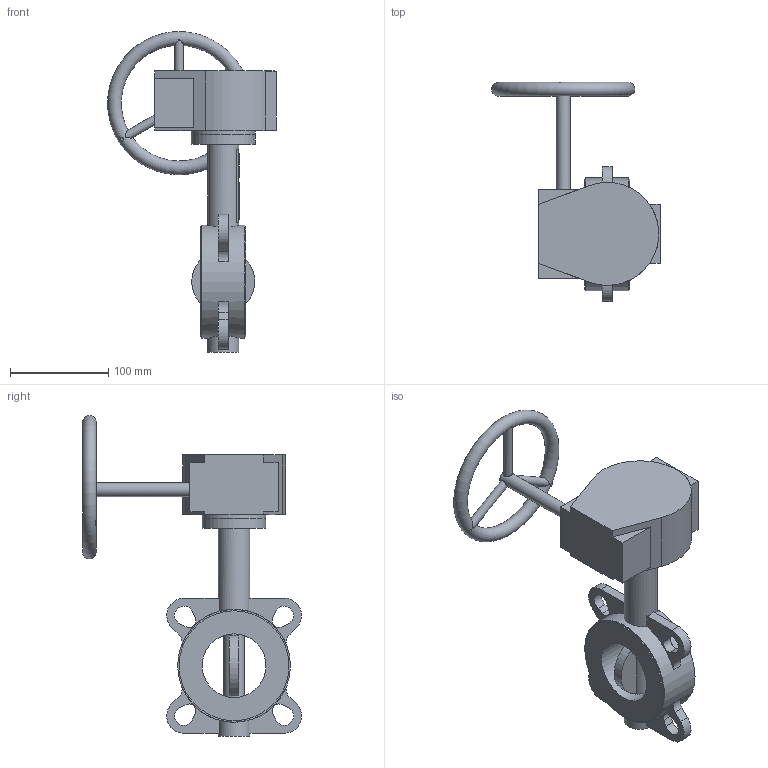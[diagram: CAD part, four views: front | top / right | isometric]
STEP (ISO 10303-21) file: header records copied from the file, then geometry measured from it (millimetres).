
FILE_DESCRIPTION(('STEP AP203'), '1');
FILE_NAME('青蜮铕 017W.ZS DN65 PN10_16 疱潴牝铕', '', ('UNSPECIFIED'), ('UNSPECIFIED'), 'ASCON STEP Converter 1.6', 'ASCON Math Kernel', '');
FILE_SCHEMA(('CONFIG_CONTROL_DESIGN'));
Length unit declared in the file: millimetre
Bounding box: 171.79 x 223.24 x 326.98 mm (x, y, z)
Volume: 764347 mm3; surface area: 159785.6 mm2
Topology: 1 solids, 2 shells, 666 faces, 1936 edges, 1246 vertices
Faces by surface type: cylinder 458, plane 207, torus 1
Full cylindrical faces by diameter (mm): 5 x4, 8 x4, 9 x3, 12.6 x1, 14 x1, 21 x1, 32 x2, 35 x1, 65 x3, 112 x2, 115 x1
Entity records: 29691 total; most frequent: CARTESIAN_POINT 5921, DIRECTION 4187, ORIENTED_EDGE 3759, EDGE_CURVE 1911, AXIS2_PLACEMENT_3D 1635, VERTEX_POINT 1245, CIRCLE 968, LINE 917
